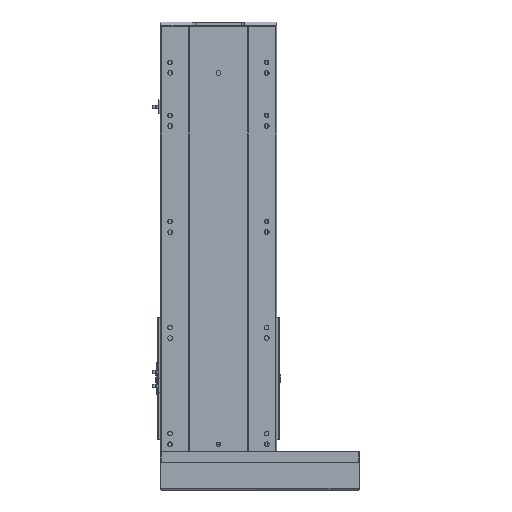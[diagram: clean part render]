
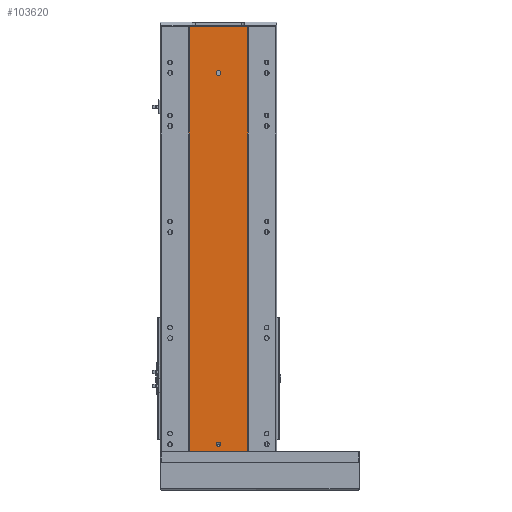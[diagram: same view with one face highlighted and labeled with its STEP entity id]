
A CAD part, top view. The second image highlights one B-rep face of the part: STEP entity #103620.
In plain terms, the highlighted planar face has unit normal (0, 0, 1).
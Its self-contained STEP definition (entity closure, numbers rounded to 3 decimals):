
#282 = CARTESIAN_POINT ( 'NONE',  ( 0., 14., 58. ) ) ;
#2283 = VECTOR ( 'NONE', #98529, 1000. ) ;
#3022 = LINE ( 'NONE', #31831, #38844 ) ;
#4114 = CARTESIAN_POINT ( 'NONE',  ( -4., 14., 58. ) ) ;
#7994 = FACE_BOUND ( 'NONE', #80198, .T. ) ;
#9272 = CARTESIAN_POINT ( 'NONE',  ( -55., 801., 58. ) ) ;
#14345 = ORIENTED_EDGE ( 'NONE', *, *, #77104, .F. ) ;
#15685 = VERTEX_POINT ( 'NONE', #92225 ) ;
#16256 = CARTESIAN_POINT ( 'NONE',  ( 0., 14., 58. ) ) ;
#16264 = CARTESIAN_POINT ( 'NONE',  ( 4., 713., 58. ) ) ;
#18882 = DIRECTION ( 'NONE',  ( 0., 0., -1. ) ) ;
#19655 = CIRCLE ( 'NONE', #124005, 4. ) ;
#21243 = DIRECTION ( 'NONE',  ( 0., -1., 0. ) ) ;
#23052 = CARTESIAN_POINT ( 'NONE',  ( 0., 715., 58. ) ) ;
#23890 = DIRECTION ( 'NONE',  ( 1., 0., 0. ) ) ;
#24349 = DIRECTION ( 'NONE',  ( 1., 0., 0. ) ) ;
#26231 = EDGE_CURVE ( 'NONE', #15685, #49116, #19655, .T. ) ;
#26338 = ORIENTED_EDGE ( 'NONE', *, *, #35511, .F. ) ;
#27680 = LINE ( 'NONE', #50937, #2283 ) ;
#28728 = VERTEX_POINT ( 'NONE', #80127 ) ;
#29177 = VECTOR ( 'NONE', #36198, 1000. ) ;
#29815 = CARTESIAN_POINT ( 'NONE',  ( 55., 0., 58. ) ) ;
#31255 = VERTEX_POINT ( 'NONE', #81895 ) ;
#31831 = CARTESIAN_POINT ( 'NONE',  ( 55., 801., 58. ) ) ;
#33400 = DIRECTION ( 'NONE',  ( 1., 0., 0. ) ) ;
#35340 = LINE ( 'NONE', #118576, #80193 ) ;
#35511 = EDGE_CURVE ( 'NONE', #110172, #28728, #50384, .T. ) ;
#36198 = DIRECTION ( 'NONE',  ( 0., -1., 0. ) ) ;
#36587 = LINE ( 'NONE', #54159, #29177 ) ;
#37747 = VERTEX_POINT ( 'NONE', #55288 ) ;
#38844 = VECTOR ( 'NONE', #119884, 1000. ) ;
#40674 = CARTESIAN_POINT ( 'NONE',  ( 55., 801., 58. ) ) ;
#42731 = DIRECTION ( 'NONE',  ( 0., 0., 1. ) ) ;
#43859 = FACE_BOUND ( 'NONE', #60030, .T. ) ;
#46922 = ORIENTED_EDGE ( 'NONE', *, *, #100685, .T. ) ;
#47254 = DIRECTION ( 'NONE',  ( -1., 0., 0. ) ) ;
#48641 = LINE ( 'NONE', #16264, #118853 ) ;
#49116 = VERTEX_POINT ( 'NONE', #58142 ) ;
#50019 = VECTOR ( 'NONE', #21243, 1000. ) ;
#50384 = CIRCLE ( 'NONE', #64716, 4. ) ;
#50458 = CARTESIAN_POINT ( 'NONE',  ( -4., 713., 58. ) ) ;
#50937 = CARTESIAN_POINT ( 'NONE',  ( -55., 801., 58. ) ) ;
#54159 = CARTESIAN_POINT ( 'NONE',  ( -55., 801., 58. ) ) ;
#54625 = ORIENTED_EDGE ( 'NONE', *, *, #93701, .F. ) ;
#55288 = CARTESIAN_POINT ( 'NONE',  ( -55., 801., 58. ) ) ;
#55801 = FACE_OUTER_BOUND ( 'NONE', #94811, .T. ) ;
#57068 = DIRECTION ( 'NONE',  ( 0., 0., 1. ) ) ;
#58142 = CARTESIAN_POINT ( 'NONE',  ( -4., 715., 58. ) ) ;
#60030 = EDGE_LOOP ( 'NONE', ( #117980, #26338 ) ) ;
#61186 = VERTEX_POINT ( 'NONE', #82577 ) ;
#63426 = DIRECTION ( 'NONE',  ( 1., 0., 0. ) ) ;
#64716 = AXIS2_PLACEMENT_3D ( 'NONE', #282, #57068, #66223 ) ;
#64915 = ORIENTED_EDGE ( 'NONE', *, *, #106656, .T. ) ;
#65889 = ORIENTED_EDGE ( 'NONE', *, *, #83572, .F. ) ;
#66223 = DIRECTION ( 'NONE',  ( 1., 0., 0. ) ) ;
#71425 = CARTESIAN_POINT ( 'NONE',  ( 4., 713., 58. ) ) ;
#73163 = AXIS2_PLACEMENT_3D ( 'NONE', #9272, #18882, #47254 ) ;
#75422 = LINE ( 'NONE', #50458, #50019 ) ;
#75847 = ORIENTED_EDGE ( 'NONE', *, *, #26231, .F. ) ;
#76386 = VERTEX_POINT ( 'NONE', #29815 ) ;
#76807 = AXIS2_PLACEMENT_3D ( 'NONE', #99909, #42731, #24349 ) ;
#77104 = EDGE_CURVE ( 'NONE', #37747, #114401, #27680, .T. ) ;
#80127 = CARTESIAN_POINT ( 'NONE',  ( 4., 14., 58. ) ) ;
#80193 = VECTOR ( 'NONE', #33400, 1000. ) ;
#80198 = EDGE_LOOP ( 'NONE', ( #94736, #121134, #54625, #75847 ) ) ;
#81089 = VERTEX_POINT ( 'NONE', #71425 ) ;
#81895 = CARTESIAN_POINT ( 'NONE',  ( -55., 0., 58. ) ) ;
#82577 = CARTESIAN_POINT ( 'NONE',  ( -4., 713., 58. ) ) ;
#83050 = DIRECTION ( 'NONE',  ( 0., 1., 0. ) ) ;
#83130 = CIRCLE ( 'NONE', #88128, 4. ) ;
#83572 = EDGE_CURVE ( 'NONE', #114401, #76386, #3022, .T. ) ;
#88128 = AXIS2_PLACEMENT_3D ( 'NONE', #16256, #111430, #63426 ) ;
#92225 = CARTESIAN_POINT ( 'NONE',  ( 4., 715., 58. ) ) ;
#93701 = EDGE_CURVE ( 'NONE', #49116, #61186, #75422, .T. ) ;
#94736 = ORIENTED_EDGE ( 'NONE', *, *, #102005, .F. ) ;
#94811 = EDGE_LOOP ( 'NONE', ( #46922, #65889, #14345, #64915 ) ) ;
#98529 = DIRECTION ( 'NONE',  ( 1., 0., 0. ) ) ;
#98910 = CIRCLE ( 'NONE', #76807, 4. ) ;
#99022 = DIRECTION ( 'NONE',  ( 0., 0., 1. ) ) ;
#99909 = CARTESIAN_POINT ( 'NONE',  ( 0., 713., 58. ) ) ;
#100685 = EDGE_CURVE ( 'NONE', #31255, #76386, #35340, .T. ) ;
#100780 = EDGE_CURVE ( 'NONE', #28728, #110172, #83130, .T. ) ;
#102005 = EDGE_CURVE ( 'NONE', #81089, #15685, #48641, .T. ) ;
#103620 = ADVANCED_FACE ( 'NONE', ( #43859, #7994, #55801 ), #123277, .F. ) ;
#106656 = EDGE_CURVE ( 'NONE', #37747, #31255, #36587, .T. ) ;
#109500 = EDGE_CURVE ( 'NONE', #61186, #81089, #98910, .T. ) ;
#110172 = VERTEX_POINT ( 'NONE', #4114 ) ;
#111430 = DIRECTION ( 'NONE',  ( 0., 0., 1. ) ) ;
#114401 = VERTEX_POINT ( 'NONE', #40674 ) ;
#117980 = ORIENTED_EDGE ( 'NONE', *, *, #100780, .F. ) ;
#118576 = CARTESIAN_POINT ( 'NONE',  ( -55., 0., 58. ) ) ;
#118853 = VECTOR ( 'NONE', #83050, 1000. ) ;
#119884 = DIRECTION ( 'NONE',  ( 0., -1., 0. ) ) ;
#121134 = ORIENTED_EDGE ( 'NONE', *, *, #109500, .F. ) ;
#123277 = PLANE ( 'NONE',  #73163 ) ;
#124005 = AXIS2_PLACEMENT_3D ( 'NONE', #23052, #99022, #23890 ) ;
